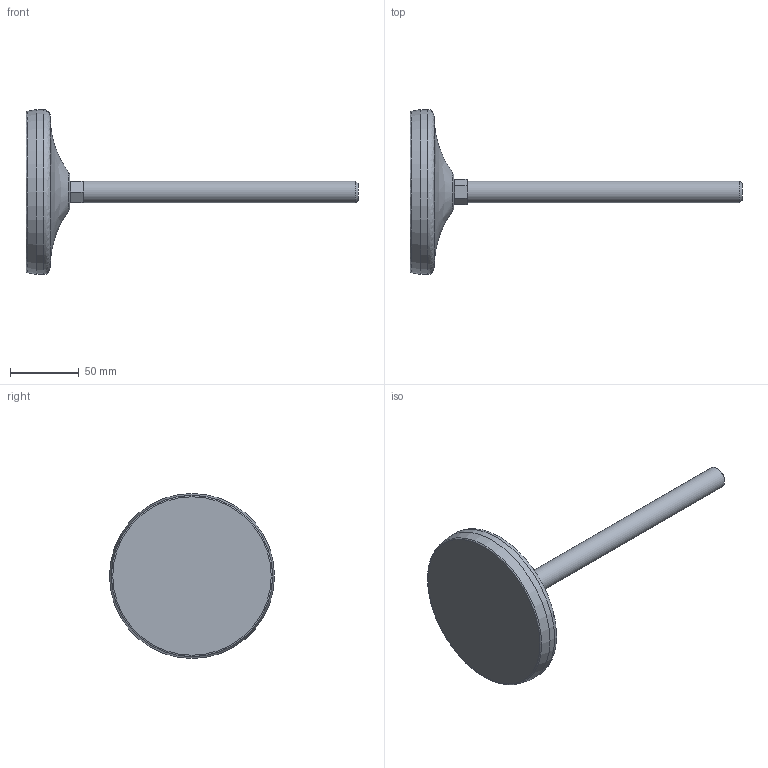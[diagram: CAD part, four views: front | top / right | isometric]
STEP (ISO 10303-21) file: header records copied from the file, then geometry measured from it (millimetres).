
FILE_DESCRIPTION(('STEP AP203'),'2;1');
FILE_NAME('26206.stp','2015-09-03T07:23:33',(''),(''),'2008.1.107','THINKDESIGN','');
FILE_SCHEMA(('CONFIG_CONTROL_DESIGN'));
Length unit declared in the file: millimetre
Bounding box: 241.5 x 120 x 120 mm (x, y, z)
Volume: 271869 mm3; surface area: 62252 mm2
Topology: 4 solids, 4 shells, 28 faces, 60 edges, 40 vertices
Faces by surface type: plane 14, bspline 12, cylinder 2
Full cylindrical faces by diameter (mm): 16 x1, 120 x1
Entity records: 1158 total; most frequent: CARTESIAN_POINT 470, ORIENTED_EDGE 120, DIRECTION 118, EDGE_CURVE 60, AXIS2_PLACEMENT_3D 42, VERTEX_POINT 40, VECTOR 34, LINE 34
